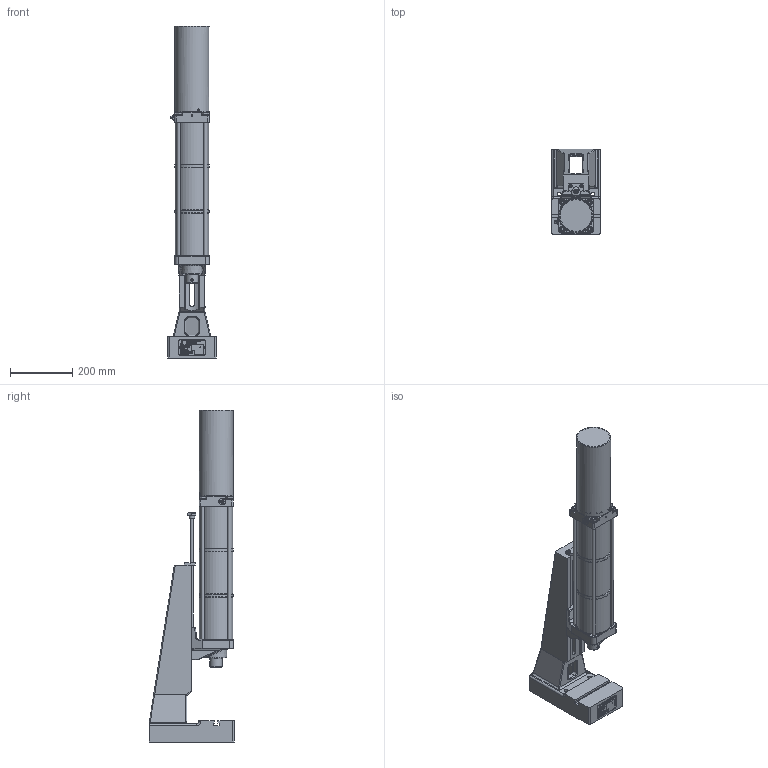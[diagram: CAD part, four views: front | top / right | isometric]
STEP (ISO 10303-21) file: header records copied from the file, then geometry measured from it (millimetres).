
FILE_DESCRIPTION(/* description */ ('BS Ständer L-DA Ausladung 80'),/* implementation_level */ '2;1');
FILE_NAME(/* name */ 'B:\02_CAD_oeffentlich\CAD_3D_oeffentlich_step\Druckluftpresse\DRP_L_1300_100_080.stp',/* time_stamp */ '2017-08-22T07:54:41+02:00',/* author */ ('Finsterle'),/* organization */ (''),/* preprocessor_version */ 'ST-DEVELOPER v16.1',/* originating_system */ 'Autodesk Inventor 2016',/* authorisation */ '');
FILE_SCHEMA (('AUTOMOTIVE_DESIGN { 1 0 10303 214 3 1 1 }'));
Products named in the file (5): ENG-000855_V; ENG-001057_V; HBF-000760; ENG-000755; HBF-001043_V
Assembly tree (5 placements, depth 2):
  HBF-001043_V
    ENG-000855_V
    ENG-001057_V
    HBF-000760
    ENG-000755  x2
Bounding box: 156 x 276.8 x 1069.83 mm (x, y, z)
Volume: 5822816.1 mm3; surface area: 1281906 mm2
Topology: 6 solids, 6 shells, 7570 faces, 20701 edges, 13577 vertices
Faces by surface type: plane 4627, bspline 2241, cylinder 399, cone 146, torus 96, sphere 61
Full cylindrical faces by diameter (mm): 1 x1, 2 x1, 2.459 x2, 3 x9, 3.242 x2, 3.5 x2, 4 x3, 4.917 x2, 5 x4, 6.5 x2, 6.647 x1, 8 x9, 8.4 x1, 9.5 x1, 10 x6, 10.106 x1, 10.5 x8, 11 x2, 11.8 x2, 12 x6, 12.5 x3, 13 x4, 14.376 x1, 14.95 x3, 16 x1, 17.5 x2, 18 x3, 19.4 x1, 19.5 x1, 20 x7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
Entity records: 259111 total; most frequent: CARTESIAN_POINT 76863, ORIENTED_EDGE 40446, DIRECTION 27385, EDGE_CURVE 20218, LINE 14411, VECTOR 14411, VERTEX_POINT 13475, EDGE_LOOP 8425
